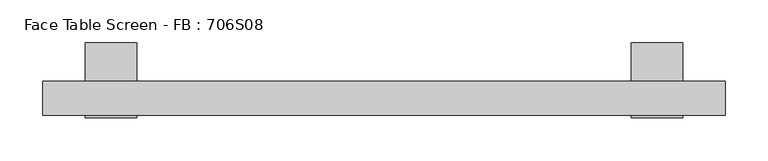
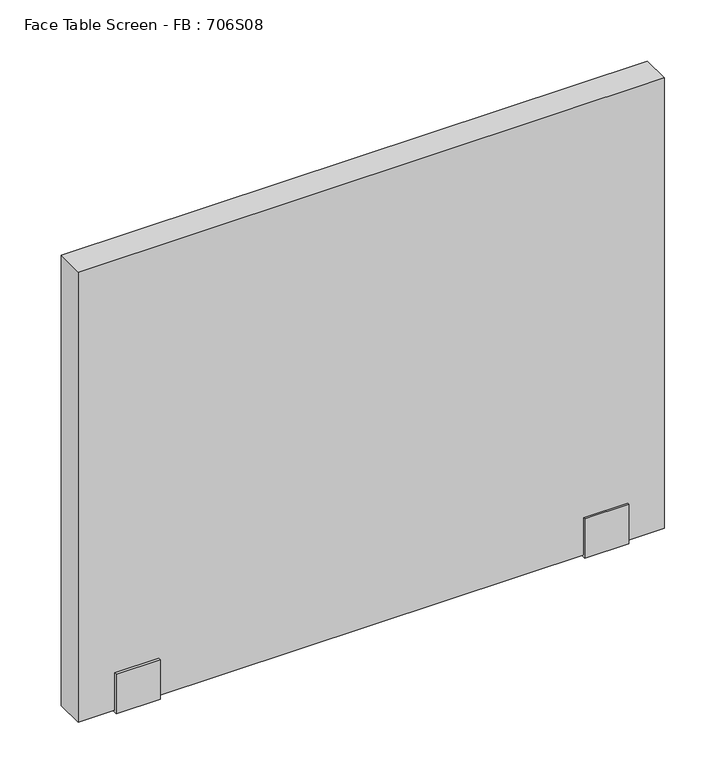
"""IFC4 building model written with IfcOpenShell, lengths in millimetres: furniture geometry, Face Table Screen - FB : 706S08."""

from ifc_helpers import new_model, si_unit, frame, origin, place, context, project, spatial, polyline, outline, extrude, source, transform, mapped, element, save


def face_table_screen_fb_706s08_bac2a356(model_context):
    return source(origin(), model_context, "Body", "SweptSolid", [
        extrude(outline(polyline([(-42.9999947, -156.0), (-42.9999997, -99.0433898), (-40.0, -99.0433898), (-40.0, -153.0), (0.0, -153.0), (0.0, -22.0), (45.0, -22.0), (45.0, -25.0433898), (3.0000062, -25.0433898), (2.9999947, -156.0), (-42.9999947, -156.0)])), frame((309.9863751, 0.0, 0.0), z_axis=(1.0, 0.0, 0.0), x_axis=(0.0, 1.0, 0.0)), (0.0, 0.0, 1.0), 60.0),
        extrude(outline(polyline([(-42.9999947, -156.0), (-42.9999997, -99.0433898), (-40.0, -99.0433898), (-40.0, -153.0), (0.0, -153.0), (0.0, -22.0), (45.0, -22.0), (45.0, -25.0433898), (3.0000062, -25.0433898), (2.9999947, -156.0), (-42.9999947, -156.0)])), frame((-330.0136249, 0.0, 0.0), z_axis=(1.0, 0.0, 0.0), x_axis=(0.0, 1.0, 0.0)), (0.0, 0.0, 1.0), 60.0),
        extrude(outline(polyline([(419.9863751, -40.0), (-380.0136249, -40.0), (-380.0136249, 0.0), (419.9863751, 0.0), (419.9863751, -40.0)])), frame((0.0, 0.0, -153.0), z_axis=(0.0, 0.0, 1.0), x_axis=(1.0, 0.0, 0.0)), (0.0, 0.0, 1.0), 650.0),
    ])


if __name__ == "__main__":
    model = new_model("IFC4")
    model_context = context("Model", 3, world=origin())
    ifc_project = project(units=[si_unit("LENGTHUNIT", "METRE", prefix="MILLI")], contexts=[model_context])
    site = spatial("IfcSite", under=ifc_project)
    building = spatial("IfcBuilding", under=site)
    placement = place(None, origin())
    face_table_screen_fb_706s08_shape = face_table_screen_fb_706s08_bac2a356(model_context)
    element("IfcFurniture", 1, ObjectType="Face Table Screen - FB : 706S08", at=placement, inside=building, context=model_context, shape_type="MappedRepresentation", body=[
        mapped(face_table_screen_fb_706s08_shape, transform((0.0, 0.0, 0.0), x_axis=(1.0, 0.0, 0.0), y_axis=(0.0, 1.0, 0.0), z_axis=(0.0, 0.0, 1.0))),
    ])
    save(model, "model.ifc")
